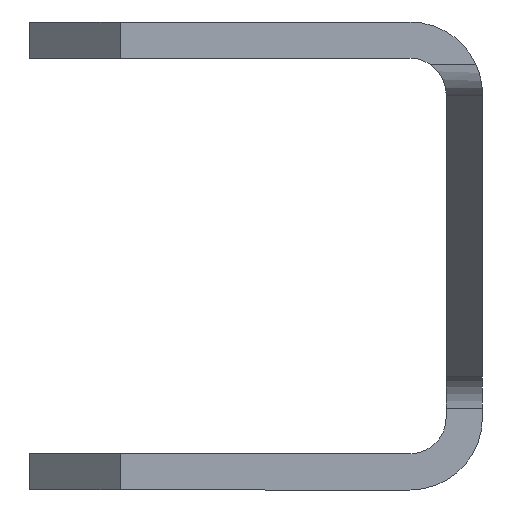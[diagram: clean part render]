
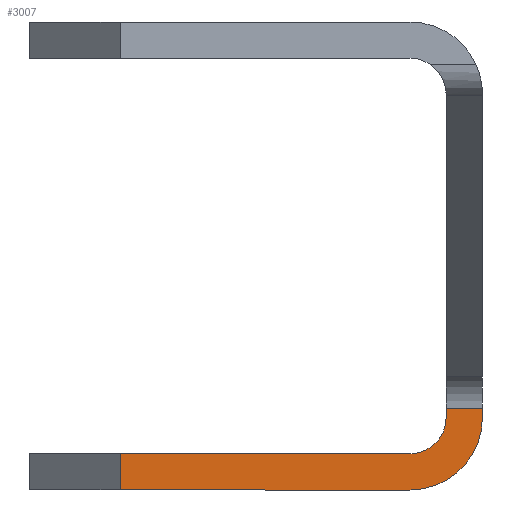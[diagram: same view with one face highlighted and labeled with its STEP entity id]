
A CAD part, left-side view. The second image highlights one B-rep face of the part: STEP entity #3007.
In plain terms, the highlighted planar face has unit normal (-1, 0, 0).
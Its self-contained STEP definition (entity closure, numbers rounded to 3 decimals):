
#228 = VERTEX_POINT ( 'NONE', #1440 ) ;
#229 = VERTEX_POINT ( 'NONE', #1439 ) ;
#238 = VERTEX_POINT ( 'NONE', #1430 ) ;
#239 = VERTEX_POINT ( 'NONE', #1429 ) ;
#252 = VERTEX_POINT ( 'NONE', #1416 ) ;
#254 = VERTEX_POINT ( 'NONE', #1414 ) ;
#256 = VERTEX_POINT ( 'NONE', #1412 ) ;
#257 = VERTEX_POINT ( 'NONE', #1411 ) ;
#309 = VECTOR ( 'NONE', #2899, 1000. ) ;
#313 = VECTOR ( 'NONE', #1398, 1000. ) ;
#321 = AXIS2_PLACEMENT_3D ( 'NONE', #1210, #1209, #1208 ) ;
#326 = FACE_OUTER_BOUND ( 'NONE', #1858, .T. ) ;
#342 = AXIS2_PLACEMENT_3D ( 'NONE', #2908, #2907, #2906 ) ;
#347 = VECTOR ( 'NONE', #1395, 1000. ) ;
#698 = VECTOR ( 'NONE', #2414, 1000. ) ;
#730 = AXIS2_PLACEMENT_3D ( 'NONE', #2499, #2498, #2497 ) ;
#738 = VECTOR ( 'NONE', #2854, 1000. ) ;
#747 = VECTOR ( 'NONE', #2526, 1000. ) ;
#867 = EDGE_CURVE ( 'NONE', #238, #254, #1400, .T. ) ;
#868 = EDGE_CURVE ( 'NONE', #256, #229, #1397, .T. ) ;
#874 = EDGE_CURVE ( 'NONE', #257, #252, #1099, .T. ) ;
#876 = EDGE_CURVE ( 'NONE', #254, #252, #2901, .T. ) ;
#891 = EDGE_CURVE ( 'NONE', #257, #256, #2856, .T. ) ;
#1054 = CIRCLE ( 'NONE', #730, 2.4 ) ;
#1099 = CIRCLE ( 'NONE', #342, 1.2 ) ;
#1208 = DIRECTION ( 'NONE',  ( 0., 0., -1. ) ) ;
#1209 = DIRECTION ( 'NONE',  ( 1., 0., 0. ) ) ;
#1210 = CARTESIAN_POINT ( 'NONE',  ( -337.5, 7.5, -4.35 ) ) ;
#1211 = PLANE ( 'NONE',  #321 ) ;
#1395 = DIRECTION ( 'NONE',  ( 0., 0., -1. ) ) ;
#1396 = CARTESIAN_POINT ( 'NONE',  ( -337.5, 4.5, -4.35 ) ) ;
#1397 = LINE ( 'NONE', #1396, #347 ) ;
#1398 = DIRECTION ( 'NONE',  ( 0., 1., 0. ) ) ;
#1399 = CARTESIAN_POINT ( 'NONE',  ( -337.5, 7.5, -5.046 ) ) ;
#1400 = LINE ( 'NONE', #1399, #313 ) ;
#1411 = CARTESIAN_POINT ( 'NONE',  ( -337.5, -5.1, -6.55 ) ) ;
#1412 = CARTESIAN_POINT ( 'NONE',  ( -337.5, 4.5, -6.55 ) ) ;
#1414 = CARTESIAN_POINT ( 'NONE',  ( -337.5, -6.3, -5.046 ) ) ;
#1416 = CARTESIAN_POINT ( 'NONE',  ( -337.5, -6.3, -5.35 ) ) ;
#1429 = CARTESIAN_POINT ( 'NONE',  ( -337.5, -7.5, -5.35 ) ) ;
#1430 = CARTESIAN_POINT ( 'NONE',  ( -337.5, -7.5, -5.046 ) ) ;
#1439 = CARTESIAN_POINT ( 'NONE',  ( -337.5, 4.5, -7.75 ) ) ;
#1440 = CARTESIAN_POINT ( 'NONE',  ( -337.5, -5.1, -7.75 ) ) ;
#1686 = ORIENTED_EDGE ( 'NONE', *, *, #874, .F. ) ;
#1687 = ORIENTED_EDGE ( 'NONE', *, *, #876, .T. ) ;
#1689 = ORIENTED_EDGE ( 'NONE', *, *, #867, .T. ) ;
#1690 = ORIENTED_EDGE ( 'NONE', *, *, #2026, .T. ) ;
#1691 = ORIENTED_EDGE ( 'NONE', *, *, #2016, .F. ) ;
#1692 = ORIENTED_EDGE ( 'NONE', *, *, #868, .T. ) ;
#1693 = ORIENTED_EDGE ( 'NONE', *, *, #891, .T. ) ;
#1696 = ORIENTED_EDGE ( 'NONE', *, *, #2051, .T. ) ;
#1858 = EDGE_LOOP ( 'NONE', ( #1693, #1692, #1696, #1690, #1691, #1689, #1687, #1686 ) ) ;
#2016 = EDGE_CURVE ( 'NONE', #238, #239, #2528, .T. ) ;
#2026 = EDGE_CURVE ( 'NONE', #228, #239, #1054, .T. ) ;
#2051 = EDGE_CURVE ( 'NONE', #229, #228, #2416, .T. ) ;
#2414 = DIRECTION ( 'NONE',  ( 0., -1., 0. ) ) ;
#2415 = CARTESIAN_POINT ( 'NONE',  ( -337.5, 7.5, -7.75 ) ) ;
#2416 = LINE ( 'NONE', #2415, #698 ) ;
#2497 = DIRECTION ( 'NONE',  ( 0., 0., -1. ) ) ;
#2498 = DIRECTION ( 'NONE',  ( -1., 0., 0. ) ) ;
#2499 = CARTESIAN_POINT ( 'NONE',  ( -337.5, -5.1, -5.35 ) ) ;
#2526 = DIRECTION ( 'NONE',  ( 0., 0., -1. ) ) ;
#2527 = CARTESIAN_POINT ( 'NONE',  ( -337.5, -7.5, -4.35 ) ) ;
#2528 = LINE ( 'NONE', #2527, #747 ) ;
#2854 = DIRECTION ( 'NONE',  ( 0., 1., 0. ) ) ;
#2855 = CARTESIAN_POINT ( 'NONE',  ( -337.5, 7.5, -6.55 ) ) ;
#2856 = LINE ( 'NONE', #2855, #738 ) ;
#2899 = DIRECTION ( 'NONE',  ( 0., 0., -1. ) ) ;
#2900 = CARTESIAN_POINT ( 'NONE',  ( -337.5, -6.3, 7.75 ) ) ;
#2901 = LINE ( 'NONE', #2900, #309 ) ;
#2906 = DIRECTION ( 'NONE',  ( 0., 0., -1. ) ) ;
#2907 = DIRECTION ( 'NONE',  ( -1., 0., 0. ) ) ;
#2908 = CARTESIAN_POINT ( 'NONE',  ( -337.5, -5.1, -5.35 ) ) ;
#3007 = ADVANCED_FACE ( 'NONE', ( #326 ), #1211, .F. ) ;
